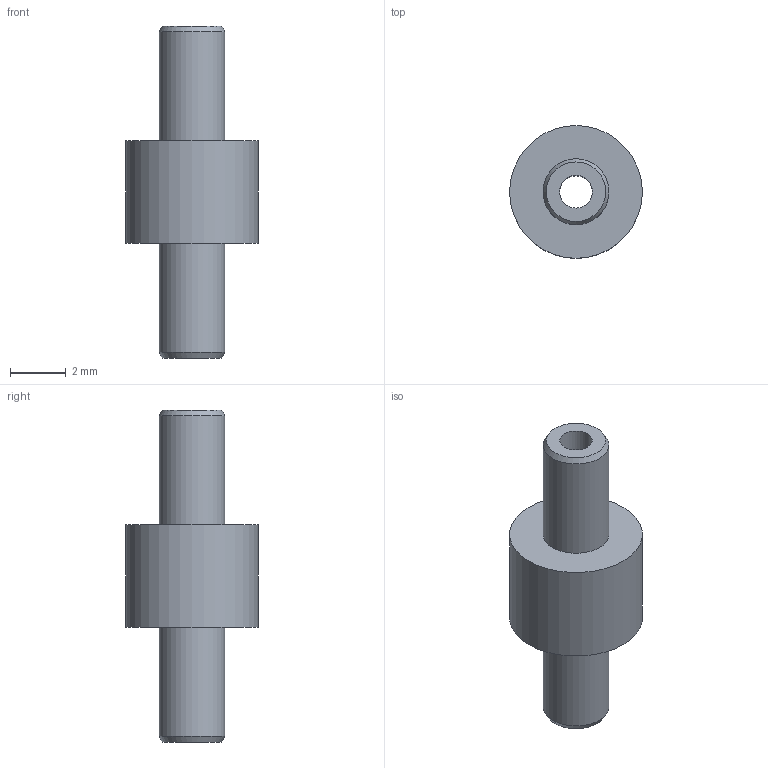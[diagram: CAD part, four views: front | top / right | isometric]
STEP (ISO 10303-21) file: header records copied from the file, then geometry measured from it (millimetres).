
FILE_DESCRIPTION((''),'2;1');
FILE_NAME('F:\AirCom-Produktdokumentation\Volumenstromregelung\F2804\CAD\CAD AirCom\3D\B-2804-400.stp','2008-10-15T16:26:27',('Frank Schroers'),(''),'Autodesk Inventor 2008','Autodesk Inventor 2008','');
FILE_SCHEMA(('AUTOMOTIVE_DESIGN { 1 0 10303 214 1 1 1 1 }'));
Length unit declared in the file: millimetre
Products named in the file (1): B-2804-404
Bounding box: 4.75 x 4.75 x 11.88 mm (x, y, z)
Volume: 87.9 mm3; surface area: 191.2 mm2
Topology: 1 solids, 1 shells, 10 faces, 16 edges, 10 vertices
Faces by surface type: cylinder 4, plane 4, cone 2
Full cylindrical faces by diameter (mm): 1.17 x1, 2.36 x2, 4.75 x1
Entity records: 234 total; most frequent: DIRECTION 42, CARTESIAN_POINT 31, AXIS2_PLACEMENT_3D 21, ORIENTED_EDGE 20, EDGE_LOOP 20, VERTEX_POINT 10, CIRCLE 10, EDGE_CURVE 10
